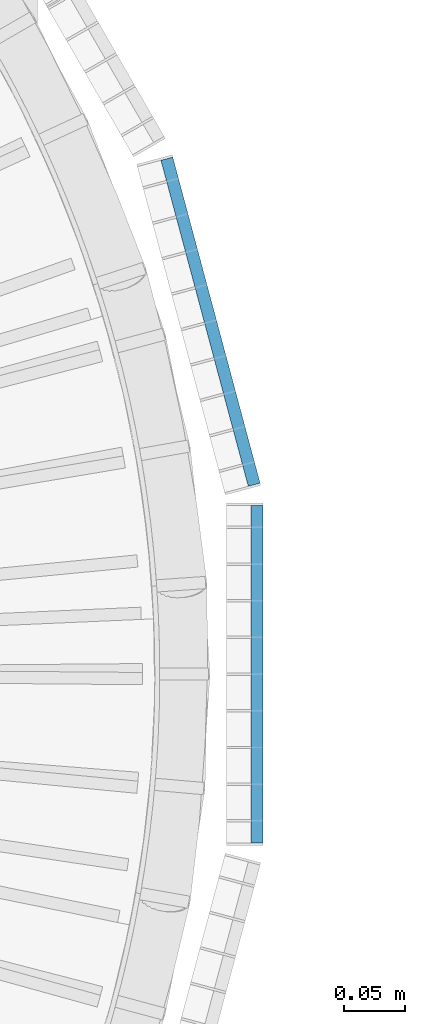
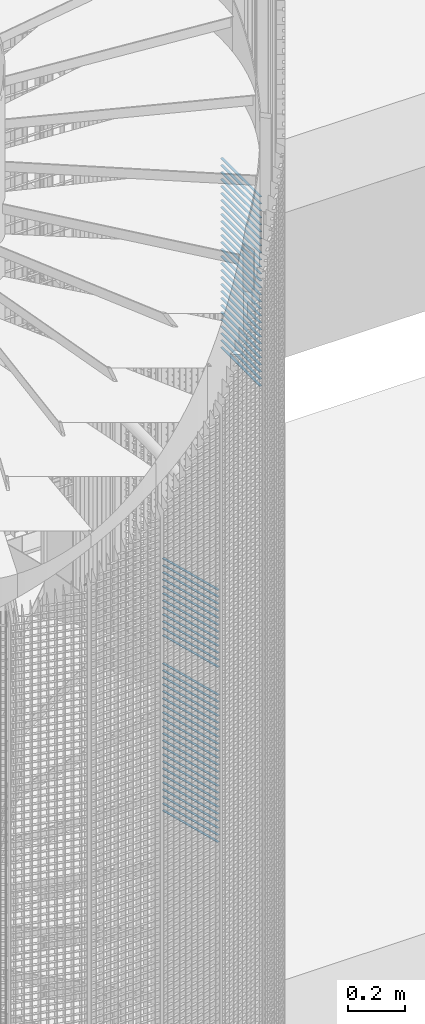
# One storey, part 289 of 1183: 62 beams, 2 elements without a shape of their own.
"""IFC2X3 building model written with IfcOpenShell, lengths in millimetres."""

from ifc_helpers import new_model, si_unit, frame, origin_with_axes, origin_2d_with_axis, place, context, subcontext, project, spatial, rectangle, extrude, material, type_object, element, aggregate, save


model = new_model("IFC2X3")

# Units and contexts
model_context = context("Model", 3, precision=1e-05, world=origin_with_axes())
body_context = subcontext(model_context, "Body", "Model", "MODEL_VIEW")
ifc_project = project(units=[si_unit("LENGTHUNIT", "METRE", prefix="MILLI"), si_unit("AREAUNIT", "SQUARE_METRE"), si_unit("VOLUMEUNIT", "CUBIC_METRE"), si_unit("MASSUNIT", "GRAM", prefix="KILO"), si_unit("TIMEUNIT", "SECOND"), si_unit("PLANEANGLEUNIT", "RADIAN"), si_unit("SOLIDANGLEUNIT", "STERADIAN"), si_unit("THERMODYNAMICTEMPERATUREUNIT", "DEGREE_CELSIUS"), si_unit("LUMINOUSINTENSITYUNIT", "LUMEN")], contexts=[model_context])

# Site, building, storey
site_placement = place(None, origin_with_axes())
site = spatial("IfcSite", under=ifc_project, at=site_placement, Name="Undefined", CompositionType="ELEMENT")
building_placement = place(site_placement, origin_with_axes())
building = spatial("IfcBuilding", under=site, at=building_placement, Name="Undefined", CompositionType="ELEMENT")
storey_placement = place(building_placement, origin_with_axes())
storey = spatial("IfcBuildingStorey", under=building, at=storey_placement, Name="Undefined", CompositionType="ELEMENT", Elevation=0.0)

# Assembly, beams
assembly_1_placement = place(storey_placement, origin_with_axes())
assembly_1 = element("IfcElementAssembly", 1, at=assembly_1_placement, inside=storey, Name="BORDURE", AssemblyPlace="NOTDEFINED", PredefinedType="NOTDEFINED")
ifc_material = material(Name="STEEL/S235JR")
beam_type = type_object("IfcBeamType", Name="PL2*10", PredefinedType="NOTDEFINED")
beam_1_placement = place(assembly_1_placement, frame((1111.25508286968, 154.895926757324, 9660.0), z_axis=(0.965925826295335, 0.258819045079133, 0.0), x_axis=(-0.258819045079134, 0.965925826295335, 0.0)))
beam_1 = element("IfcBeam", 2, at=beam_1_placement, type_object=beam_type, material=ifc_material, Name="ENTRETOISE", context=body_context, shape_type="SweptSolid", body=[
    extrude(rectangle(XDim=2.0, YDim=10.0, at=origin_2d_with_axis()), frame((275.999999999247, 9.09494701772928e-13, 1.53210777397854e-14), z_axis=(-1.0, 0.0, 0.0), x_axis=(0.0, -1.0, 0.0)), (0.0, 0.0, 1.0), 276.0),
])
beam_2_placement = place(assembly_1_placement, frame((1111.25508286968, 154.895926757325, 9630.0), z_axis=(0.965925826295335, 0.258819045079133, 0.0), x_axis=(-0.258819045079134, 0.965925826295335, 0.0)))
beam_2 = element("IfcBeam", 3, at=beam_2_placement, type_object=beam_type, material=ifc_material, Name="ENTRETOISE", context=body_context, shape_type="SweptSolid", body=[
    extrude(rectangle(XDim=2.0, YDim=10.0, at=origin_2d_with_axis()), frame((275.999999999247, 9.09494701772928e-13, 1.53210777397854e-14), z_axis=(-1.0, 0.0, 0.0), x_axis=(0.0, -1.0, 0.0)), (0.0, 0.0, 1.0), 276.0),
])
beam_3_placement = place(assembly_1_placement, frame((1111.25508286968, 154.895926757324, 9780.0), z_axis=(0.965925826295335, 0.258819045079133, 0.0), x_axis=(-0.258819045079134, 0.965925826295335, 0.0)))
beam_3 = element("IfcBeam", 4, at=beam_3_placement, type_object=beam_type, material=ifc_material, Name="ENTRETOISE", context=body_context, shape_type="SweptSolid", body=[
    extrude(rectangle(XDim=2.0, YDim=10.0, at=origin_2d_with_axis()), frame((275.999999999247, 9.09494701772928e-13, 1.53210777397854e-14), z_axis=(-1.0, 0.0, 0.0), x_axis=(0.0, -1.0, 0.0)), (0.0, 0.0, 1.0), 276.0),
])
beam_4_placement = place(assembly_1_placement, frame((1111.25508286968, 154.895926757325, 9600.0), z_axis=(0.965925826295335, 0.258819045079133, 0.0), x_axis=(-0.258819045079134, 0.965925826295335, 0.0)))
beam_4 = element("IfcBeam", 5, at=beam_4_placement, type_object=beam_type, material=ifc_material, Name="ENTRETOISE", context=body_context, shape_type="SweptSolid", body=[
    extrude(rectangle(XDim=2.0, YDim=10.0, at=origin_2d_with_axis()), frame((275.999999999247, 9.09494701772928e-13, 1.53210777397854e-14), z_axis=(-1.0, 0.0, 0.0), x_axis=(0.0, -1.0, 0.0)), (0.0, 0.0, 1.0), 276.0),
])
beam_5_placement = place(assembly_1_placement, frame((1111.25508286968, 154.895926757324, 9810.0), z_axis=(0.965925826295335, 0.258819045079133, 0.0), x_axis=(-0.258819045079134, 0.965925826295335, 0.0)))
beam_5 = element("IfcBeam", 6, at=beam_5_placement, type_object=beam_type, material=ifc_material, Name="ENTRETOISE", context=body_context, shape_type="SweptSolid", body=[
    extrude(rectangle(XDim=2.0, YDim=10.0, at=origin_2d_with_axis()), frame((275.999999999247, 9.09494701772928e-13, 1.53210777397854e-14), z_axis=(-1.0, 0.0, 0.0), x_axis=(0.0, -1.0, 0.0)), (0.0, 0.0, 1.0), 276.0),
])
beam_6_placement = place(assembly_1_placement, frame((1111.25508286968, 154.895926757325, 9570.0), z_axis=(0.965925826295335, 0.258819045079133, 0.0), x_axis=(-0.258819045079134, 0.965925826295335, 0.0)))
beam_6 = element("IfcBeam", 7, at=beam_6_placement, type_object=beam_type, material=ifc_material, Name="ENTRETOISE", context=body_context, shape_type="SweptSolid", body=[
    extrude(rectangle(XDim=2.0, YDim=10.0, at=origin_2d_with_axis()), frame((275.999999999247, 9.09494701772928e-13, 1.53210777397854e-14), z_axis=(-1.0, 0.0, 0.0), x_axis=(0.0, -1.0, 0.0)), (0.0, 0.0, 1.0), 276.0),
])
beam_7_placement = place(assembly_1_placement, frame((1111.25508286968, 154.895926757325, 9540.0), z_axis=(0.965925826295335, 0.258819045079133, 0.0), x_axis=(-0.258819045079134, 0.965925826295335, 0.0)))
beam_7 = element("IfcBeam", 8, at=beam_7_placement, type_object=beam_type, material=ifc_material, Name="ENTRETOISE", context=body_context, shape_type="SweptSolid", body=[
    extrude(rectangle(XDim=2.0, YDim=10.0, at=origin_2d_with_axis()), frame((275.999999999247, 9.09494701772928e-13, 1.53210777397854e-14), z_axis=(-1.0, 0.0, 0.0), x_axis=(0.0, -1.0, 0.0)), (0.0, 0.0, 1.0), 276.0),
])
beam_8_placement = place(assembly_1_placement, frame((1111.25508286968, 154.895926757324, 9840.0), z_axis=(0.965925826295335, 0.258819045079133, 0.0), x_axis=(-0.258819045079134, 0.965925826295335, 0.0)))
beam_8 = element("IfcBeam", 9, at=beam_8_placement, type_object=beam_type, material=ifc_material, Name="ENTRETOISE", context=body_context, shape_type="SweptSolid", body=[
    extrude(rectangle(XDim=2.0, YDim=10.0, at=origin_2d_with_axis()), frame((275.999999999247, 9.09494701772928e-13, 1.53210777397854e-14), z_axis=(-1.0, 0.0, 0.0), x_axis=(0.0, -1.0, 0.0)), (0.0, 0.0, 1.0), 276.0),
])
beam_9_placement = place(assembly_1_placement, frame((1111.25508286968, 154.895926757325, 9510.0), z_axis=(0.965925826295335, 0.258819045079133, 0.0), x_axis=(-0.258819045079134, 0.965925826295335, 0.0)))
beam_9 = element("IfcBeam", 10, at=beam_9_placement, type_object=beam_type, material=ifc_material, Name="ENTRETOISE", context=body_context, shape_type="SweptSolid", body=[
    extrude(rectangle(XDim=2.0, YDim=10.0, at=origin_2d_with_axis()), frame((275.999999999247, 9.09494701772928e-13, 1.53210777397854e-14), z_axis=(-1.0, 0.0, 0.0), x_axis=(0.0, -1.0, 0.0)), (0.0, 0.0, 1.0), 276.0),
])
beam_10_placement = place(assembly_1_placement, frame((1111.25508286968, 154.895926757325, 9480.0), z_axis=(0.965925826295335, 0.258819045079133, 0.0), x_axis=(-0.258819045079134, 0.965925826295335, 0.0)))
beam_10 = element("IfcBeam", 11, at=beam_10_placement, type_object=beam_type, material=ifc_material, Name="ENTRETOISE", context=body_context, shape_type="SweptSolid", body=[
    extrude(rectangle(XDim=2.0, YDim=10.0, at=origin_2d_with_axis()), frame((275.999999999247, 9.09494701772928e-13, 1.53210777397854e-14), z_axis=(-1.0, 0.0, 0.0), x_axis=(0.0, -1.0, 0.0)), (0.0, 0.0, 1.0), 276.0),
])
beam_11_placement = place(assembly_1_placement, frame((1111.25508286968, 154.895926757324, 9870.0), z_axis=(0.965925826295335, 0.258819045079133, 0.0), x_axis=(-0.258819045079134, 0.965925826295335, 0.0)))
beam_11 = element("IfcBeam", 12, at=beam_11_placement, type_object=beam_type, material=ifc_material, Name="ENTRETOISE", context=body_context, shape_type="SweptSolid", body=[
    extrude(rectangle(XDim=2.0, YDim=10.0, at=origin_2d_with_axis()), frame((275.999999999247, 9.09494701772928e-13, 1.53210777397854e-14), z_axis=(-1.0, 0.0, 0.0), x_axis=(0.0, -1.0, 0.0)), (0.0, 0.0, 1.0), 276.0),
])
beam_12_placement = place(assembly_1_placement, frame((1111.25508286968, 154.895926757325, 9450.0), z_axis=(0.965925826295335, 0.258819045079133, 0.0), x_axis=(-0.258819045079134, 0.965925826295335, 0.0)))
beam_12 = element("IfcBeam", 13, at=beam_12_placement, type_object=beam_type, material=ifc_material, Name="ENTRETOISE", context=body_context, shape_type="SweptSolid", body=[
    extrude(rectangle(XDim=2.0, YDim=10.0, at=origin_2d_with_axis()), frame((275.999999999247, 9.09494701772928e-13, 1.53210777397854e-14), z_axis=(-1.0, 0.0, 0.0), x_axis=(0.0, -1.0, 0.0)), (0.0, 0.0, 1.0), 276.0),
])
beam_13_placement = place(assembly_1_placement, frame((1111.25508286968, 154.895926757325, 9420.0), z_axis=(0.965925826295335, 0.258819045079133, 0.0), x_axis=(-0.258819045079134, 0.965925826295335, 0.0)))
beam_13 = element("IfcBeam", 14, at=beam_13_placement, type_object=beam_type, material=ifc_material, Name="ENTRETOISE", context=body_context, shape_type="SweptSolid", body=[
    extrude(rectangle(XDim=2.0, YDim=10.0, at=origin_2d_with_axis()), frame((275.999999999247, 9.09494701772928e-13, 1.53210777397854e-14), z_axis=(-1.0, 0.0, 0.0), x_axis=(0.0, -1.0, 0.0)), (0.0, 0.0, 1.0), 276.0),
])
beam_14_placement = place(assembly_1_placement, frame((1111.25508286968, 154.895926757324, 9900.0), z_axis=(0.965925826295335, 0.258819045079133, 0.0), x_axis=(-0.258819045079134, 0.965925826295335, 0.0)))
beam_14 = element("IfcBeam", 15, at=beam_14_placement, type_object=beam_type, material=ifc_material, Name="ENTRETOISE", context=body_context, shape_type="SweptSolid", body=[
    extrude(rectangle(XDim=2.0, YDim=10.0, at=origin_2d_with_axis()), frame((275.999999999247, 9.09494701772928e-13, 1.53210777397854e-14), z_axis=(-1.0, 0.0, 0.0), x_axis=(0.0, -1.0, 0.0)), (0.0, 0.0, 1.0), 276.0),
])
beam_15_placement = place(assembly_1_placement, frame((1111.25508286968, 154.895926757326, 9390.0), z_axis=(0.965925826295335, 0.258819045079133, 0.0), x_axis=(-0.258819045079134, 0.965925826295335, 0.0)))
beam_15 = element("IfcBeam", 16, at=beam_15_placement, type_object=beam_type, material=ifc_material, Name="ENTRETOISE", context=body_context, shape_type="SweptSolid", body=[
    extrude(rectangle(XDim=2.0, YDim=10.0, at=origin_2d_with_axis()), frame((275.999999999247, 9.09494701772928e-13, 1.53210777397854e-14), z_axis=(-1.0, 0.0, 0.0), x_axis=(0.0, -1.0, 0.0)), (0.0, 0.0, 1.0), 276.0),
])
beam_16_placement = place(assembly_1_placement, frame((1111.25508286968, 154.895926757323, 9930.0), z_axis=(0.965925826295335, 0.258819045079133, 0.0), x_axis=(-0.258819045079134, 0.965925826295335, 0.0)))
beam_16 = element("IfcBeam", 17, at=beam_16_placement, type_object=beam_type, material=ifc_material, Name="ENTRETOISE", context=body_context, shape_type="SweptSolid", body=[
    extrude(rectangle(XDim=2.0, YDim=10.0, at=origin_2d_with_axis()), frame((275.999999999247, 9.09494701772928e-13, 1.53210777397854e-14), z_axis=(-1.0, 0.0, 0.0), x_axis=(0.0, -1.0, 0.0)), (0.0, 0.0, 1.0), 276.0),
])
beam_17_placement = place(assembly_1_placement, frame((1111.25508286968, 154.895926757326, 9360.0), z_axis=(0.965925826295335, 0.258819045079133, 0.0), x_axis=(-0.258819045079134, 0.965925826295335, 0.0)))
beam_17 = element("IfcBeam", 18, at=beam_17_placement, type_object=beam_type, material=ifc_material, Name="ENTRETOISE", context=body_context, shape_type="SweptSolid", body=[
    extrude(rectangle(XDim=2.0, YDim=10.0, at=origin_2d_with_axis()), frame((275.999999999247, 9.09494701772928e-13, 1.53210777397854e-14), z_axis=(-1.0, 0.0, 0.0), x_axis=(0.0, -1.0, 0.0)), (0.0, 0.0, 1.0), 276.0),
])
beam_18_placement = place(assembly_1_placement, frame((1111.25508286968, 154.895926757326, 9330.0), z_axis=(0.965925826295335, 0.258819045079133, 0.0), x_axis=(-0.258819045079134, 0.965925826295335, 0.0)))
beam_18 = element("IfcBeam", 19, at=beam_18_placement, type_object=beam_type, material=ifc_material, Name="ENTRETOISE", context=body_context, shape_type="SweptSolid", body=[
    extrude(rectangle(XDim=2.0, YDim=10.0, at=origin_2d_with_axis()), frame((275.999999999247, 9.09494701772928e-13, 1.53210777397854e-14), z_axis=(-1.0, 0.0, 0.0), x_axis=(0.0, -1.0, 0.0)), (0.0, 0.0, 1.0), 276.0),
])
beam_19_placement = place(assembly_1_placement, frame((1111.25508286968, 154.895926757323, 9960.0), z_axis=(0.965925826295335, 0.258819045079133, 0.0), x_axis=(-0.258819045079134, 0.965925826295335, 0.0)))
beam_19 = element("IfcBeam", 20, at=beam_19_placement, type_object=beam_type, material=ifc_material, Name="ENTRETOISE", context=body_context, shape_type="SweptSolid", body=[
    extrude(rectangle(XDim=2.0, YDim=10.0, at=origin_2d_with_axis()), frame((275.999999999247, 9.09494701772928e-13, 1.53210777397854e-14), z_axis=(-1.0, 0.0, 0.0), x_axis=(0.0, -1.0, 0.0)), (0.0, 0.0, 1.0), 276.0),
])
beam_20_placement = place(assembly_1_placement, frame((1111.25508286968, 154.895926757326, 9300.0), z_axis=(0.965925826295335, 0.258819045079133, 0.0), x_axis=(-0.258819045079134, 0.965925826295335, 0.0)))
beam_20 = element("IfcBeam", 21, at=beam_20_placement, type_object=beam_type, material=ifc_material, Name="ENTRETOISE", context=body_context, shape_type="SweptSolid", body=[
    extrude(rectangle(XDim=2.0, YDim=10.0, at=origin_2d_with_axis()), frame((275.999999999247, 9.09494701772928e-13, 1.53210777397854e-14), z_axis=(-1.0, 0.0, 0.0), x_axis=(0.0, -1.0, 0.0)), (0.0, 0.0, 1.0), 276.0),
])
beam_21_placement = place(assembly_1_placement, frame((1111.25508286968, 154.895926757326, 9270.0), z_axis=(0.965925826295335, 0.258819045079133, 0.0), x_axis=(-0.258819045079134, 0.965925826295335, 0.0)))
beam_21 = element("IfcBeam", 22, at=beam_21_placement, type_object=beam_type, material=ifc_material, Name="ENTRETOISE", context=body_context, shape_type="SweptSolid", body=[
    extrude(rectangle(XDim=2.0, YDim=10.0, at=origin_2d_with_axis()), frame((275.999999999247, 9.09494701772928e-13, 1.53210777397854e-14), z_axis=(-1.0, 0.0, 0.0), x_axis=(0.0, -1.0, 0.0)), (0.0, 0.0, 1.0), 276.0),
])
beam_22_placement = place(assembly_1_placement, frame((1111.25508286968, 154.895926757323, 9990.0), z_axis=(0.965925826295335, 0.258819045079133, 0.0), x_axis=(-0.258819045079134, 0.965925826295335, 0.0)))
beam_22 = element("IfcBeam", 23, at=beam_22_placement, type_object=beam_type, material=ifc_material, Name="ENTRETOISE", context=body_context, shape_type="SweptSolid", body=[
    extrude(rectangle(XDim=2.0, YDim=10.0, at=origin_2d_with_axis()), frame((275.999999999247, 9.09494701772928e-13, 1.53210777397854e-14), z_axis=(-1.0, 0.0, 0.0), x_axis=(0.0, -1.0, 0.0)), (0.0, 0.0, 1.0), 276.0),
])
beam_23_placement = place(assembly_1_placement, frame((1111.25508286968, 154.895926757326, 9240.0), z_axis=(0.965925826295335, 0.258819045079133, 0.0), x_axis=(-0.258819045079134, 0.965925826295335, 0.0)))
beam_23 = element("IfcBeam", 24, at=beam_23_placement, type_object=beam_type, material=ifc_material, Name="ENTRETOISE", context=body_context, shape_type="SweptSolid", body=[
    extrude(rectangle(XDim=2.0, YDim=10.0, at=origin_2d_with_axis()), frame((275.999999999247, 9.09494701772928e-13, 1.53210777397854e-14), z_axis=(-1.0, 0.0, 0.0), x_axis=(0.0, -1.0, 0.0)), (0.0, 0.0, 1.0), 276.0),
])
beam_24_placement = place(assembly_1_placement, frame((1111.25508286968, 154.895926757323, 10020.0), z_axis=(0.965925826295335, 0.258819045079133, 0.0), x_axis=(-0.258819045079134, 0.965925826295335, 0.0)))
beam_24 = element("IfcBeam", 25, at=beam_24_placement, type_object=beam_type, material=ifc_material, Name="ENTRETOISE", context=body_context, shape_type="SweptSolid", body=[
    extrude(rectangle(XDim=2.0, YDim=10.0, at=origin_2d_with_axis()), frame((275.999999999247, 9.09494701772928e-13, 1.53210777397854e-14), z_axis=(-1.0, 0.0, 0.0), x_axis=(0.0, -1.0, 0.0)), (0.0, 0.0, 1.0), 276.0),
])
beam_25_placement = place(assembly_1_placement, frame((1111.25508286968, 154.895926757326, 9210.0), z_axis=(0.965925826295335, 0.258819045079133, 0.0), x_axis=(-0.258819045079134, 0.965925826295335, 0.0)))
beam_25 = element("IfcBeam", 26, at=beam_25_placement, type_object=beam_type, material=ifc_material, Name="ENTRETOISE", context=body_context, shape_type="SweptSolid", body=[
    extrude(rectangle(XDim=2.0, YDim=10.0, at=origin_2d_with_axis()), frame((275.999999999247, 9.09494701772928e-13, 1.53210777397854e-14), z_axis=(-1.0, 0.0, 0.0), x_axis=(0.0, -1.0, 0.0)), (0.0, 0.0, 1.0), 276.0),
])
beam_26_placement = place(assembly_1_placement, frame((1111.25508286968, 154.895926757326, 9180.0), z_axis=(0.965925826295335, 0.258819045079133, 0.0), x_axis=(-0.258819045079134, 0.965925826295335, 0.0)))
beam_26 = element("IfcBeam", 27, at=beam_26_placement, type_object=beam_type, material=ifc_material, Name="ENTRETOISE", context=body_context, shape_type="SweptSolid", body=[
    extrude(rectangle(XDim=2.0, YDim=10.0, at=origin_2d_with_axis()), frame((275.999999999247, 9.09494701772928e-13, 1.53210777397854e-14), z_axis=(-1.0, 0.0, 0.0), x_axis=(0.0, -1.0, 0.0)), (0.0, 0.0, 1.0), 276.0),
])
beam_27_placement = place(assembly_1_placement, frame((1111.25508286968, 154.895926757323, 10050.0), z_axis=(0.965925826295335, 0.258819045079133, 0.0), x_axis=(-0.258819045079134, 0.965925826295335, 0.0)))
beam_27 = element("IfcBeam", 28, at=beam_27_placement, type_object=beam_type, material=ifc_material, Name="ENTRETOISE", context=body_context, shape_type="SweptSolid", body=[
    extrude(rectangle(XDim=2.0, YDim=10.0, at=origin_2d_with_axis()), frame((275.999999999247, 9.09494701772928e-13, 1.53210777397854e-14), z_axis=(-1.0, 0.0, 0.0), x_axis=(0.0, -1.0, 0.0)), (0.0, 0.0, 1.0), 276.0),
])
beam_28_placement = place(assembly_1_placement, frame((1111.25508286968, 154.895926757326, 9150.0), z_axis=(0.965925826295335, 0.258819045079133, 0.0), x_axis=(-0.258819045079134, 0.965925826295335, 0.0)))
beam_28 = element("IfcBeam", 29, at=beam_28_placement, type_object=beam_type, material=ifc_material, Name="ENTRETOISE", context=body_context, shape_type="SweptSolid", body=[
    extrude(rectangle(XDim=2.0, YDim=10.0, at=origin_2d_with_axis()), frame((275.999999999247, 9.09494701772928e-13, 1.53210777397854e-14), z_axis=(-1.0, 0.0, 0.0), x_axis=(0.0, -1.0, 0.0)), (0.0, 0.0, 1.0), 276.0),
])
beam_29_placement = place(assembly_1_placement, frame((1111.25508286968, 154.895926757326, 9120.0), z_axis=(0.965925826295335, 0.258819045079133, 0.0), x_axis=(-0.258819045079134, 0.965925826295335, 0.0)))
beam_29 = element("IfcBeam", 30, at=beam_29_placement, type_object=beam_type, material=ifc_material, Name="ENTRETOISE", context=body_context, shape_type="SweptSolid", body=[
    extrude(rectangle(XDim=2.0, YDim=10.0, at=origin_2d_with_axis()), frame((275.999999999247, 9.09494701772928e-13, 1.53210777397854e-14), z_axis=(-1.0, 0.0, 0.0), x_axis=(0.0, -1.0, 0.0)), (0.0, 0.0, 1.0), 276.0),
])
beam_30_placement = place(assembly_1_placement, frame((1111.25508286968, 154.895926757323, 10080.0), z_axis=(0.965925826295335, 0.258819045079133, 0.0), x_axis=(-0.258819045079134, 0.965925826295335, 0.0)))
beam_30 = element("IfcBeam", 31, at=beam_30_placement, type_object=beam_type, material=ifc_material, Name="ENTRETOISE", context=body_context, shape_type="SweptSolid", body=[
    extrude(rectangle(XDim=2.0, YDim=10.0, at=origin_2d_with_axis()), frame((275.999999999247, 9.09494701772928e-13, 1.53210777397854e-14), z_axis=(-1.0, 0.0, 0.0), x_axis=(0.0, -1.0, 0.0)), (0.0, 0.0, 1.0), 276.0),
])
beam_31_placement = place(assembly_1_placement, frame((1111.25508286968, 154.895926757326, 9090.0), z_axis=(0.965925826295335, 0.258819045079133, 0.0), x_axis=(-0.258819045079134, 0.965925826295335, 0.0)))
beam_31 = element("IfcBeam", 32, at=beam_31_placement, type_object=beam_type, material=ifc_material, Name="ENTRETOISE", context=body_context, shape_type="SweptSolid", body=[
    extrude(rectangle(XDim=2.0, YDim=10.0, at=origin_2d_with_axis()), frame((275.999999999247, 9.09494701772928e-13, 1.53210777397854e-14), z_axis=(-1.0, 0.0, 0.0), x_axis=(0.0, -1.0, 0.0)), (0.0, 0.0, 1.0), 276.0),
])
beam_32_placement = place(assembly_1_placement, frame((1111.25508286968, 154.895926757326, 9060.0), z_axis=(0.965925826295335, 0.258819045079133, 0.0), x_axis=(-0.258819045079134, 0.965925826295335, 0.0)))
beam_32 = element("IfcBeam", 33, at=beam_32_placement, type_object=beam_type, material=ifc_material, Name="ENTRETOISE", context=body_context, shape_type="SweptSolid", body=[
    extrude(rectangle(XDim=2.0, YDim=10.0, at=origin_2d_with_axis()), frame((275.999999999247, 9.09494701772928e-13, 1.53210777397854e-14), z_axis=(-1.0, 0.0, 0.0), x_axis=(0.0, -1.0, 0.0)), (0.0, 0.0, 1.0), 276.0),
])
beam_33_placement = place(assembly_1_placement, frame((1111.25508286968, 154.895926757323, 10110.0), z_axis=(0.965925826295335, 0.258819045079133, 0.0), x_axis=(-0.258819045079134, 0.965925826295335, 0.0)))
beam_33 = element("IfcBeam", 34, at=beam_33_placement, type_object=beam_type, material=ifc_material, Name="ENTRETOISE", context=body_context, shape_type="SweptSolid", body=[
    extrude(rectangle(XDim=2.0, YDim=10.0, at=origin_2d_with_axis()), frame((275.999999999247, 9.09494701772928e-13, 1.53210777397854e-14), z_axis=(-1.0, 0.0, 0.0), x_axis=(0.0, -1.0, 0.0)), (0.0, 0.0, 1.0), 276.0),
])
beam_34_placement = place(assembly_1_placement, frame((1111.25508286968, 154.895926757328, 9030.0), z_axis=(0.965925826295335, 0.258819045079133, 0.0), x_axis=(-0.258819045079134, 0.965925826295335, 0.0)))
beam_34 = element("IfcBeam", 35, at=beam_34_placement, type_object=beam_type, material=ifc_material, Name="ENTRETOISE", context=body_context, shape_type="SweptSolid", body=[
    extrude(rectangle(XDim=2.0, YDim=10.0, at=origin_2d_with_axis()), frame((275.999999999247, 9.09494701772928e-13, 1.53210777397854e-14), z_axis=(-1.0, 0.0, 0.0), x_axis=(0.0, -1.0, 0.0)), (0.0, 0.0, 1.0), 276.0),
])
aggregate(assembly_1, [beam_1, beam_2, beam_3, beam_4, beam_5, beam_6, beam_7, beam_8, beam_9, beam_10, beam_11, beam_12, beam_13, beam_14, beam_15, beam_16, beam_17, beam_18, beam_19, beam_20, beam_21, beam_22, beam_23, beam_24, beam_25, beam_26, beam_27, beam_28, beam_29, beam_30, beam_31, beam_32, beam_33, beam_34])

assembly_2_placement = place(storey_placement, origin_with_axes())
assembly_2 = element("IfcElementAssembly", 36, at=assembly_2_placement, inside=storey, Name="BORDURE", AssemblyPlace="NOTDEFINED", PredefinedType="NOTDEFINED")
beam_35_placement = place(assembly_2_placement, frame((1113.47999999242, -137.996003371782, 11970.0), z_axis=(1.0, 0.0, 0.0), x_axis=(0.0, 1.0, 0.0)))
beam_35 = element("IfcBeam", 37, at=beam_35_placement, type_object=beam_type, material=ifc_material, Name="ENTRETOISE", context=body_context, shape_type="SweptSolid", body=[
    extrude(rectangle(XDim=2.0, YDim=10.0, at=origin_2d_with_axis()), frame((275.999999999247, 9.09494701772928e-13, 1.53210777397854e-14), z_axis=(-1.0, 0.0, 0.0), x_axis=(0.0, -1.0, 0.0)), (0.0, 0.0, 1.0), 276.0),
])
beam_36_placement = place(assembly_2_placement, frame((1113.47999999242, -137.996003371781, 11940.0), z_axis=(1.0, 0.0, 0.0), x_axis=(0.0, 1.0, 0.0)))
beam_36 = element("IfcBeam", 38, at=beam_36_placement, type_object=beam_type, material=ifc_material, Name="ENTRETOISE", context=body_context, shape_type="SweptSolid", body=[
    extrude(rectangle(XDim=2.0, YDim=10.0, at=origin_2d_with_axis()), frame((275.999999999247, 9.09494701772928e-13, 1.53210777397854e-14), z_axis=(-1.0, 0.0, 0.0), x_axis=(0.0, -1.0, 0.0)), (0.0, 0.0, 1.0), 276.0),
])
beam_37_placement = place(assembly_2_placement, frame((1113.47999999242, -137.996003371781, 11910.0), z_axis=(1.0, 0.0, 0.0), x_axis=(0.0, 1.0, 0.0)))
beam_37 = element("IfcBeam", 39, at=beam_37_placement, type_object=beam_type, material=ifc_material, Name="ENTRETOISE", context=body_context, shape_type="SweptSolid", body=[
    extrude(rectangle(XDim=2.0, YDim=10.0, at=origin_2d_with_axis()), frame((275.999999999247, 9.09494701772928e-13, 1.53210777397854e-14), z_axis=(-1.0, 0.0, 0.0), x_axis=(0.0, -1.0, 0.0)), (0.0, 0.0, 1.0), 276.0),
])
beam_38_placement = place(assembly_2_placement, frame((1113.47999999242, -137.996003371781, 11880.0), z_axis=(1.0, 0.0, 0.0), x_axis=(0.0, 1.0, 0.0)))
beam_38 = element("IfcBeam", 40, at=beam_38_placement, type_object=beam_type, material=ifc_material, Name="ENTRETOISE", context=body_context, shape_type="SweptSolid", body=[
    extrude(rectangle(XDim=2.0, YDim=10.0, at=origin_2d_with_axis()), frame((275.999999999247, 9.09494701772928e-13, 1.53210777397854e-14), z_axis=(-1.0, 0.0, 0.0), x_axis=(0.0, -1.0, 0.0)), (0.0, 0.0, 1.0), 276.0),
])
beam_39_placement = place(assembly_2_placement, frame((1113.47999999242, -137.996003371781, 11850.0), z_axis=(1.0, 0.0, 0.0), x_axis=(0.0, 1.0, 0.0)))
beam_39 = element("IfcBeam", 41, at=beam_39_placement, type_object=beam_type, material=ifc_material, Name="ENTRETOISE", context=body_context, shape_type="SweptSolid", body=[
    extrude(rectangle(XDim=2.0, YDim=10.0, at=origin_2d_with_axis()), frame((275.999999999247, 9.09494701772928e-13, 1.53210777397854e-14), z_axis=(-1.0, 0.0, 0.0), x_axis=(0.0, -1.0, 0.0)), (0.0, 0.0, 1.0), 276.0),
])
beam_40_placement = place(assembly_2_placement, frame((1113.47999999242, -137.996003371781, 11820.0), z_axis=(1.0, 0.0, 0.0), x_axis=(0.0, 1.0, 0.0)))
beam_40 = element("IfcBeam", 42, at=beam_40_placement, type_object=beam_type, material=ifc_material, Name="ENTRETOISE", context=body_context, shape_type="SweptSolid", body=[
    extrude(rectangle(XDim=2.0, YDim=10.0, at=origin_2d_with_axis()), frame((275.999999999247, 9.09494701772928e-13, 1.53210777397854e-14), z_axis=(-1.0, 0.0, 0.0), x_axis=(0.0, -1.0, 0.0)), (0.0, 0.0, 1.0), 276.0),
])
beam_41_placement = place(assembly_2_placement, frame((1113.47999999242, -137.996003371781, 11790.0), z_axis=(1.0, 0.0, 0.0), x_axis=(0.0, 1.0, 0.0)))
beam_41 = element("IfcBeam", 43, at=beam_41_placement, type_object=beam_type, material=ifc_material, Name="ENTRETOISE", context=body_context, shape_type="SweptSolid", body=[
    extrude(rectangle(XDim=2.0, YDim=10.0, at=origin_2d_with_axis()), frame((275.999999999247, 9.09494701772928e-13, 1.53210777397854e-14), z_axis=(-1.0, 0.0, 0.0), x_axis=(0.0, -1.0, 0.0)), (0.0, 0.0, 1.0), 276.0),
])
beam_42_placement = place(assembly_2_placement, frame((1113.47999999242, -137.996003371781, 11760.0), z_axis=(1.0, 0.0, 0.0), x_axis=(0.0, 1.0, 0.0)))
beam_42 = element("IfcBeam", 44, at=beam_42_placement, type_object=beam_type, material=ifc_material, Name="ENTRETOISE", context=body_context, shape_type="SweptSolid", body=[
    extrude(rectangle(XDim=2.0, YDim=10.0, at=origin_2d_with_axis()), frame((275.999999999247, 9.09494701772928e-13, 1.53210777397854e-14), z_axis=(-1.0, 0.0, 0.0), x_axis=(0.0, -1.0, 0.0)), (0.0, 0.0, 1.0), 276.0),
])
beam_43_placement = place(assembly_2_placement, frame((1113.47999999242, -137.996003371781, 11730.0), z_axis=(1.0, 0.0, 0.0), x_axis=(0.0, 1.0, 0.0)))
beam_43 = element("IfcBeam", 45, at=beam_43_placement, type_object=beam_type, material=ifc_material, Name="ENTRETOISE", context=body_context, shape_type="SweptSolid", body=[
    extrude(rectangle(XDim=2.0, YDim=10.0, at=origin_2d_with_axis()), frame((275.999999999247, 9.09494701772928e-13, 1.53210777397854e-14), z_axis=(-1.0, 0.0, 0.0), x_axis=(0.0, -1.0, 0.0)), (0.0, 0.0, 1.0), 276.0),
])
beam_44_placement = place(assembly_2_placement, frame((1113.47999999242, -137.996003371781, 11700.0), z_axis=(1.0, 0.0, 0.0), x_axis=(0.0, 1.0, 0.0)))
beam_44 = element("IfcBeam", 46, at=beam_44_placement, type_object=beam_type, material=ifc_material, Name="ENTRETOISE", context=body_context, shape_type="SweptSolid", body=[
    extrude(rectangle(XDim=2.0, YDim=10.0, at=origin_2d_with_axis()), frame((275.999999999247, 9.09494701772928e-13, 1.53210777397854e-14), z_axis=(-1.0, 0.0, 0.0), x_axis=(0.0, -1.0, 0.0)), (0.0, 0.0, 1.0), 276.0),
])
beam_45_placement = place(assembly_2_placement, frame((1113.47999999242, -137.996003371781, 11670.0), z_axis=(1.0, 0.0, 0.0), x_axis=(0.0, 1.0, 0.0)))
beam_45 = element("IfcBeam", 47, at=beam_45_placement, type_object=beam_type, material=ifc_material, Name="ENTRETOISE", context=body_context, shape_type="SweptSolid", body=[
    extrude(rectangle(XDim=2.0, YDim=10.0, at=origin_2d_with_axis()), frame((275.999999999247, 9.09494701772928e-13, 1.53210777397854e-14), z_axis=(-1.0, 0.0, 0.0), x_axis=(0.0, -1.0, 0.0)), (0.0, 0.0, 1.0), 276.0),
])
beam_46_placement = place(assembly_2_placement, frame((1113.47999999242, -137.99600337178, 11640.0), z_axis=(1.0, 0.0, 0.0), x_axis=(0.0, 1.0, 0.0)))
beam_46 = element("IfcBeam", 48, at=beam_46_placement, type_object=beam_type, material=ifc_material, Name="ENTRETOISE", context=body_context, shape_type="SweptSolid", body=[
    extrude(rectangle(XDim=2.0, YDim=10.0, at=origin_2d_with_axis()), frame((275.999999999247, 9.09494701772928e-13, 1.53210777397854e-14), z_axis=(-1.0, 0.0, 0.0), x_axis=(0.0, -1.0, 0.0)), (0.0, 0.0, 1.0), 276.0),
])
beam_47_placement = place(assembly_2_placement, frame((1113.47999999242, -137.99600337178, 11610.0), z_axis=(1.0, 0.0, 0.0), x_axis=(0.0, 1.0, 0.0)))
beam_47 = element("IfcBeam", 49, at=beam_47_placement, type_object=beam_type, material=ifc_material, Name="ENTRETOISE", context=body_context, shape_type="SweptSolid", body=[
    extrude(rectangle(XDim=2.0, YDim=10.0, at=origin_2d_with_axis()), frame((275.999999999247, 9.09494701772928e-13, 1.53210777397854e-14), z_axis=(-1.0, 0.0, 0.0), x_axis=(0.0, -1.0, 0.0)), (0.0, 0.0, 1.0), 276.0),
])
beam_48_placement = place(assembly_2_placement, frame((1113.47999999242, -137.99600337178, 11580.0), z_axis=(1.0, 0.0, 0.0), x_axis=(0.0, 1.0, 0.0)))
beam_48 = element("IfcBeam", 50, at=beam_48_placement, type_object=beam_type, material=ifc_material, Name="ENTRETOISE", context=body_context, shape_type="SweptSolid", body=[
    extrude(rectangle(XDim=2.0, YDim=10.0, at=origin_2d_with_axis()), frame((275.999999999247, 9.09494701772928e-13, 1.53210777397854e-14), z_axis=(-1.0, 0.0, 0.0), x_axis=(0.0, -1.0, 0.0)), (0.0, 0.0, 1.0), 276.0),
])
beam_49_placement = place(assembly_2_placement, frame((1113.47999999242, -137.99600337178, 11550.0), z_axis=(1.0, 0.0, 0.0), x_axis=(0.0, 1.0, 0.0)))
beam_49 = element("IfcBeam", 51, at=beam_49_placement, type_object=beam_type, material=ifc_material, Name="ENTRETOISE", context=body_context, shape_type="SweptSolid", body=[
    extrude(rectangle(XDim=2.0, YDim=10.0, at=origin_2d_with_axis()), frame((275.999999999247, 9.09494701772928e-13, 1.53210777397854e-14), z_axis=(-1.0, 0.0, 0.0), x_axis=(0.0, -1.0, 0.0)), (0.0, 0.0, 1.0), 276.0),
])
beam_50_placement = place(assembly_2_placement, frame((1113.47999999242, -137.99600337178, 11520.0), z_axis=(1.0, 0.0, 0.0), x_axis=(0.0, 1.0, 0.0)))
beam_50 = element("IfcBeam", 52, at=beam_50_placement, type_object=beam_type, material=ifc_material, Name="ENTRETOISE", context=body_context, shape_type="SweptSolid", body=[
    extrude(rectangle(XDim=2.0, YDim=10.0, at=origin_2d_with_axis()), frame((275.999999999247, 9.09494701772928e-13, 1.53210777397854e-14), z_axis=(-1.0, 0.0, 0.0), x_axis=(0.0, -1.0, 0.0)), (0.0, 0.0, 1.0), 276.0),
])
beam_51_placement = place(assembly_2_placement, frame((1113.47999999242, -137.99600337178, 11490.0), z_axis=(1.0, 0.0, 0.0), x_axis=(0.0, 1.0, 0.0)))
beam_51 = element("IfcBeam", 53, at=beam_51_placement, type_object=beam_type, material=ifc_material, Name="ENTRETOISE", context=body_context, shape_type="SweptSolid", body=[
    extrude(rectangle(XDim=2.0, YDim=10.0, at=origin_2d_with_axis()), frame((275.999999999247, 9.09494701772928e-13, 1.53210777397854e-14), z_axis=(-1.0, 0.0, 0.0), x_axis=(0.0, -1.0, 0.0)), (0.0, 0.0, 1.0), 276.0),
])
beam_52_placement = place(assembly_2_placement, frame((1113.47999999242, -137.99600337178, 11460.0), z_axis=(1.0, 0.0, 0.0), x_axis=(0.0, 1.0, 0.0)))
beam_52 = element("IfcBeam", 54, at=beam_52_placement, type_object=beam_type, material=ifc_material, Name="ENTRETOISE", context=body_context, shape_type="SweptSolid", body=[
    extrude(rectangle(XDim=2.0, YDim=10.0, at=origin_2d_with_axis()), frame((275.999999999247, 9.09494701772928e-13, 1.53210777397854e-14), z_axis=(-1.0, 0.0, 0.0), x_axis=(0.0, -1.0, 0.0)), (0.0, 0.0, 1.0), 276.0),
])
beam_53_placement = place(assembly_2_placement, frame((1113.47999999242, -137.99600337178, 11430.0), z_axis=(1.0, 0.0, 0.0), x_axis=(0.0, 1.0, 0.0)))
beam_53 = element("IfcBeam", 55, at=beam_53_placement, type_object=beam_type, material=ifc_material, Name="ENTRETOISE", context=body_context, shape_type="SweptSolid", body=[
    extrude(rectangle(XDim=2.0, YDim=10.0, at=origin_2d_with_axis()), frame((275.999999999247, 9.09494701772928e-13, 1.53210777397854e-14), z_axis=(-1.0, 0.0, 0.0), x_axis=(0.0, -1.0, 0.0)), (0.0, 0.0, 1.0), 276.0),
])
beam_54_placement = place(assembly_2_placement, frame((1113.47999999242, -137.996003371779, 11400.0), z_axis=(1.0, 0.0, 0.0), x_axis=(0.0, 1.0, 0.0)))
beam_54 = element("IfcBeam", 56, at=beam_54_placement, type_object=beam_type, material=ifc_material, Name="ENTRETOISE", context=body_context, shape_type="SweptSolid", body=[
    extrude(rectangle(XDim=2.0, YDim=10.0, at=origin_2d_with_axis()), frame((275.999999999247, 9.09494701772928e-13, 1.53210777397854e-14), z_axis=(-1.0, 0.0, 0.0), x_axis=(0.0, -1.0, 0.0)), (0.0, 0.0, 1.0), 276.0),
])
beam_55_placement = place(assembly_2_placement, frame((1113.47999999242, -137.996003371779, 11370.0), z_axis=(1.0, 0.0, 0.0), x_axis=(0.0, 1.0, 0.0)))
beam_55 = element("IfcBeam", 57, at=beam_55_placement, type_object=beam_type, material=ifc_material, Name="ENTRETOISE", context=body_context, shape_type="SweptSolid", body=[
    extrude(rectangle(XDim=2.0, YDim=10.0, at=origin_2d_with_axis()), frame((275.999999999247, 9.09494701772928e-13, 1.53210777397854e-14), z_axis=(-1.0, 0.0, 0.0), x_axis=(0.0, -1.0, 0.0)), (0.0, 0.0, 1.0), 276.0),
])
beam_56_placement = place(assembly_2_placement, frame((1113.47999999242, -137.996003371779, 11340.0), z_axis=(1.0, 0.0, 0.0), x_axis=(0.0, 1.0, 0.0)))
beam_56 = element("IfcBeam", 58, at=beam_56_placement, type_object=beam_type, material=ifc_material, Name="ENTRETOISE", context=body_context, shape_type="SweptSolid", body=[
    extrude(rectangle(XDim=2.0, YDim=10.0, at=origin_2d_with_axis()), frame((275.999999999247, 9.09494701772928e-13, 1.53210777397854e-14), z_axis=(-1.0, 0.0, 0.0), x_axis=(0.0, -1.0, 0.0)), (0.0, 0.0, 1.0), 276.0),
])
beam_57_placement = place(assembly_2_placement, frame((1113.47999999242, -137.996003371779, 11310.0), z_axis=(1.0, 0.0, 0.0), x_axis=(0.0, 1.0, 0.0)))
beam_57 = element("IfcBeam", 59, at=beam_57_placement, type_object=beam_type, material=ifc_material, Name="ENTRETOISE", context=body_context, shape_type="SweptSolid", body=[
    extrude(rectangle(XDim=2.0, YDim=10.0, at=origin_2d_with_axis()), frame((275.999999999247, 9.09494701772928e-13, 1.53210777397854e-14), z_axis=(-1.0, 0.0, 0.0), x_axis=(0.0, -1.0, 0.0)), (0.0, 0.0, 1.0), 276.0),
])
beam_58_placement = place(assembly_2_placement, frame((1113.47999999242, -137.996003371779, 11280.0), z_axis=(1.0, 0.0, 0.0), x_axis=(0.0, 1.0, 0.0)))
beam_58 = element("IfcBeam", 60, at=beam_58_placement, type_object=beam_type, material=ifc_material, Name="ENTRETOISE", context=body_context, shape_type="SweptSolid", body=[
    extrude(rectangle(XDim=2.0, YDim=10.0, at=origin_2d_with_axis()), frame((275.999999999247, 9.09494701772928e-13, 1.53210777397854e-14), z_axis=(-1.0, 0.0, 0.0), x_axis=(0.0, -1.0, 0.0)), (0.0, 0.0, 1.0), 276.0),
])
beam_59_placement = place(assembly_2_placement, frame((1113.47999999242, -137.996003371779, 11250.0), z_axis=(1.0, 0.0, 0.0), x_axis=(0.0, 1.0, 0.0)))
beam_59 = element("IfcBeam", 61, at=beam_59_placement, type_object=beam_type, material=ifc_material, Name="ENTRETOISE", context=body_context, shape_type="SweptSolid", body=[
    extrude(rectangle(XDim=2.0, YDim=10.0, at=origin_2d_with_axis()), frame((275.999999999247, 9.09494701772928e-13, 1.53210777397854e-14), z_axis=(-1.0, 0.0, 0.0), x_axis=(0.0, -1.0, 0.0)), (0.0, 0.0, 1.0), 276.0),
])
beam_60_placement = place(assembly_2_placement, frame((1113.47999999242, -137.996003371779, 11220.0), z_axis=(1.0, 0.0, 0.0), x_axis=(0.0, 1.0, 0.0)))
beam_60 = element("IfcBeam", 62, at=beam_60_placement, type_object=beam_type, material=ifc_material, Name="ENTRETOISE", context=body_context, shape_type="SweptSolid", body=[
    extrude(rectangle(XDim=2.0, YDim=10.0, at=origin_2d_with_axis()), frame((275.999999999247, 9.09494701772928e-13, 1.53210777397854e-14), z_axis=(-1.0, 0.0, 0.0), x_axis=(0.0, -1.0, 0.0)), (0.0, 0.0, 1.0), 276.0),
])
beam_61_placement = place(assembly_2_placement, frame((1113.47999999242, -137.996003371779, 11190.0), z_axis=(1.0, 0.0, 0.0), x_axis=(0.0, 1.0, 0.0)))
beam_61 = element("IfcBeam", 63, at=beam_61_placement, type_object=beam_type, material=ifc_material, Name="ENTRETOISE", context=body_context, shape_type="SweptSolid", body=[
    extrude(rectangle(XDim=2.0, YDim=10.0, at=origin_2d_with_axis()), frame((275.999999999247, 9.09494701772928e-13, 1.53210777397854e-14), z_axis=(-1.0, 0.0, 0.0), x_axis=(0.0, -1.0, 0.0)), (0.0, 0.0, 1.0), 276.0),
])
beam_62_placement = place(assembly_2_placement, frame((1113.47999999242, -137.996003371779, 11160.0), z_axis=(1.0, 0.0, 0.0), x_axis=(0.0, 1.0, 0.0)))
beam_62 = element("IfcBeam", 64, at=beam_62_placement, type_object=beam_type, material=ifc_material, Name="ENTRETOISE", context=body_context, shape_type="SweptSolid", body=[
    extrude(rectangle(XDim=2.0, YDim=10.0, at=origin_2d_with_axis()), frame((275.999999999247, 9.09494701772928e-13, 1.53210777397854e-14), z_axis=(-1.0, 0.0, 0.0), x_axis=(0.0, -1.0, 0.0)), (0.0, 0.0, 1.0), 276.0),
])
aggregate(assembly_2, [beam_35, beam_36, beam_37, beam_38, beam_39, beam_40, beam_41, beam_42, beam_43, beam_44, beam_45, beam_46, beam_47, beam_48, beam_49, beam_50, beam_51, beam_52, beam_53, beam_54, beam_55, beam_56, beam_57, beam_58, beam_59, beam_60, beam_61, beam_62])

save(model, "model.ifc")
